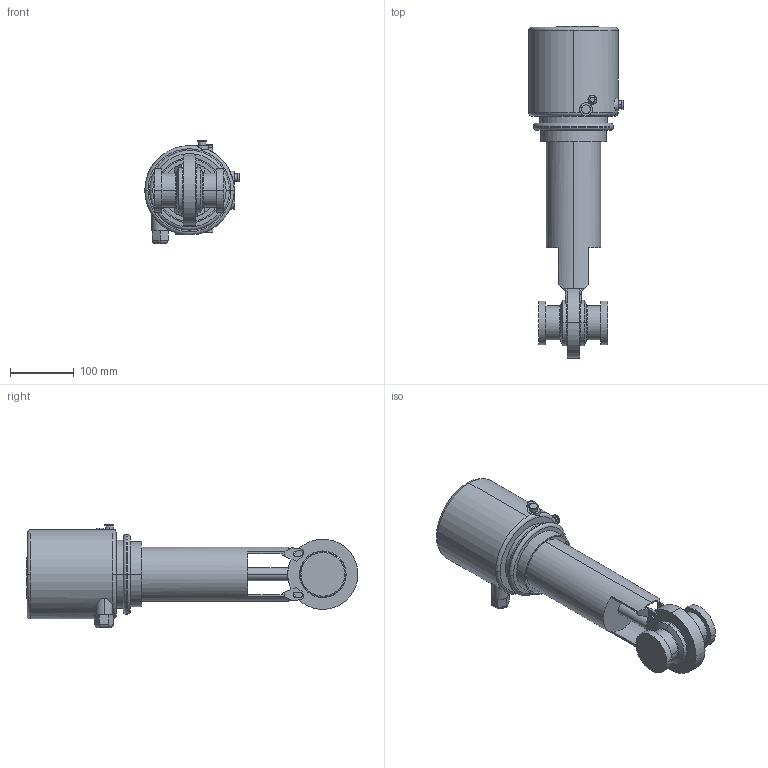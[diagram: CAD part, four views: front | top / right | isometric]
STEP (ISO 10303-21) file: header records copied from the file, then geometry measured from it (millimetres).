
FILE_DESCRIPTION(('Creo Elements/Direct Modeling STEP Export'),'2;1');
FILE_NAME('SV1-50-CU4-12K.stp','2014-07-09T15:47:49',(''),(''),'Creo Elements/Direct Modeling STEP processor for AP214 (Solid Model)','Creo Elements/Direct Modeling 17.0D 15-Jul-2011 (C) Parametric Technology GmbH','');
FILE_SCHEMA(('AUTOMOTIVE_DESIGN { 1 0 10303 214 1 1 1 1 }'));
Length unit declared in the file: millimetre
Products named in the file (3): SV1-50-FZ-12K; CU4-T-SPX_logo; SV1-50-CU4-12K
Assembly tree (2 placements, depth 2):
  SV1-50-CU4-12K
    CU4-T-SPX_logo
    SV1-50-FZ-12K
Bounding box: 148 x 519.88 x 161.4 mm (x, y, z)
Volume: 3957638.7 mm3; surface area: 239468.9 mm2
Topology: 2 solids, 2 shells, 256 faces, 678 edges, 435 vertices
Faces by surface type: plane 114, cylinder 87, extrusion 33, torus 18, cone 4
Entity records: 11805 total; most frequent: CARTESIAN_POINT 5715, ORIENTED_EDGE 1356, DIRECTION 1109, EDGE_CURVE 678, VERTEX_POINT 435, AXIS2_PLACEMENT_3D 385, VECTOR 339, LINE 306
